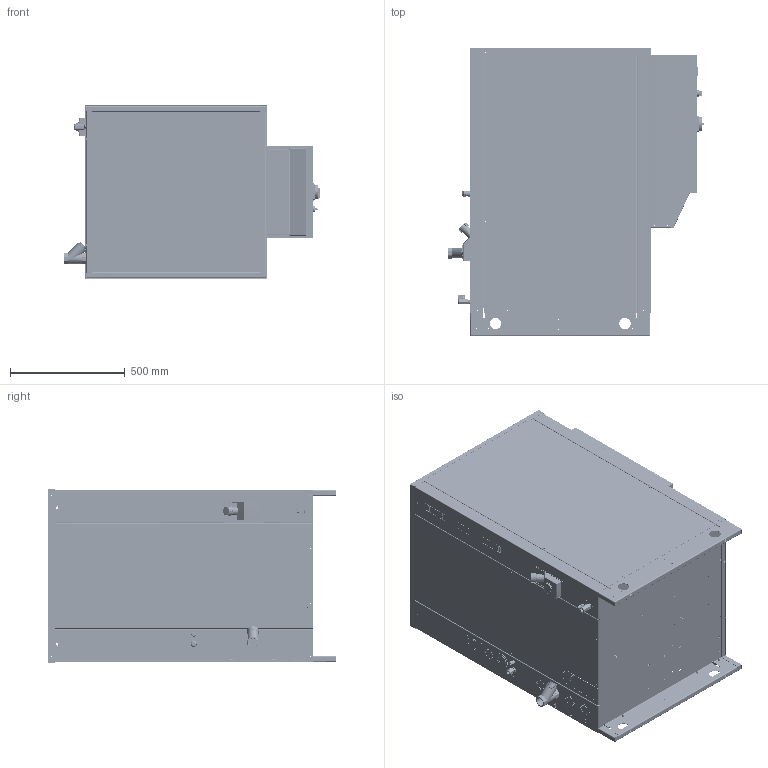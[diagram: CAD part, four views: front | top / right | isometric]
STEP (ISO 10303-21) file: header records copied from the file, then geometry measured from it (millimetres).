
FILE_DESCRIPTION (( 'STEP AP203' ), '1' );
FILE_NAME ('W-SCW_F2_UL_REV_00.STEP', '2026-07-22T13:34:09', ( '' ), ( '' ), 'SwSTEP 2.0', 'SolidWorks 2023', '' );
FILE_SCHEMA (( 'CONFIG_CONTROL_DESIGN' ));
Length unit declared in the file: millimetre
Products named in the file (37): CR-2F-00006_002B; VR-2F-00005_003; VR-2F-00016_000; RIVELOX M5; PG 9_Cable-Gland-1.209.0900.14-Nelco; PG 9_1_Socket-1.209.0900.14-Nelco; VR-2F-00017_000; CR-2F-00006_003; W-SCW_F2_UL_REV_00; VR-2D-00034_001; PG 9_2_Nut-PA-Grey-19-19-22-Nelco; CR-2F-00006_003A; CASSA UL 600X400X200; VR-2F-00008_003; VR-2F-00002_001; VR-2F-00006_003; CR-2F-00007_004; CR-2F-00005_004; SELETTORE_NERO; PG-16; CR-2F-00008; IN-VI-00001; SE-RR-00025_000; VR-2F-00010_000; TAPPO 1P  FEM ; VR-2F-00003_001; FI-AC-00070 - FILTRO Y 11-4 POLLICE; SEZIONATORE-GR_D2; FILETTO_RUBINETTO_VA-A5-00001; VA-A5-00001; SE-RP-00044_002; VR-2F-00011_000; TE-EL-00018; VR-2F-00007_004
Assembly tree (65 placements, depth 3):
  W-SCW_F2_UL_REV_00
    VR-2F-00003_001
      VR-2F-00003_001
      RIVELOX M5  x24
    VR-2F-00007_004
    VR-2F-00008_003
    VR-2F-00005_003
    VR-2F-00006_003
    CR-2F-00005_004
    CR-2F-00006_003
      CR-2F-00006_003A
      CR-2F-00006_002B
    VR-2F-00016_000
    CR-2F-00007_004
      CR-2F-00007_004
      RIVELOX M5  x6
    VR-2F-00010_000
    VR-2F-00011_000
    VR-2F-00017_000
    CR-2F-00008
    VR-2F-00002_001
    PG 9_Cable-Gland-1.209.0900.14-Nelco
      PG 9_1_Socket-1.209.0900.14-Nelco
      PG 9_2_Nut-PA-Grey-19-19-22-Nelco
    PG-16
    IN-VI-00001
    TAPPO 1P  FEM 
    SE-RP-00044_002
    FILETTO_RUBINETTO_VA-A5-00001
    VA-A5-00001
    FI-AC-00070 - FILTRO Y 11-4 POLLICE
    CASSA UL 600X400X200
      CASSA UL 600X400X200
      VR-2D-00034_001
      SE-RR-00025_000
      TE-EL-00018
      SELETTORE_NERO
      SEZIONATORE-GR_D2
Bounding box: 1114.99 x 1254.2 x 757 mm (x, y, z)
Volume: 57282563.7 mm3; surface area: 16570667.7 mm2
Topology: 137 solids, 232 shells, 7886 faces, 20292 edges, 12786 vertices
Faces by surface type: plane 4552, cylinder 2031, bspline 707, cone 287, torus 198, sphere 111
Entity records: 272691 total; most frequent: CARTESIAN_POINT 92092, ORIENTED_EDGE 38343, DIRECTION 32165, EDGE_CURVE 19393, VERTEX_POINT 12262, LINE 11241, VECTOR 11241, AXIS2_PLACEMENT_3D 10462
